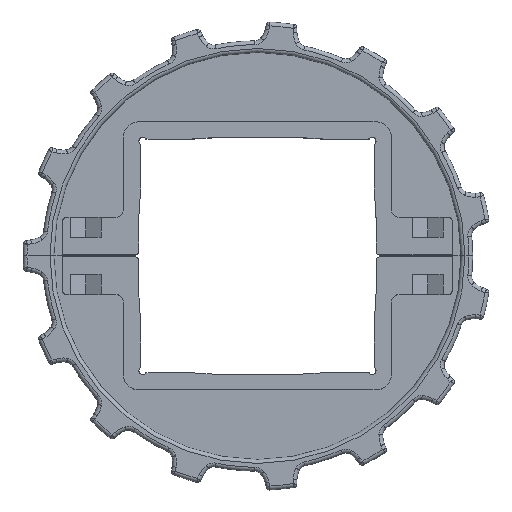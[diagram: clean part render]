
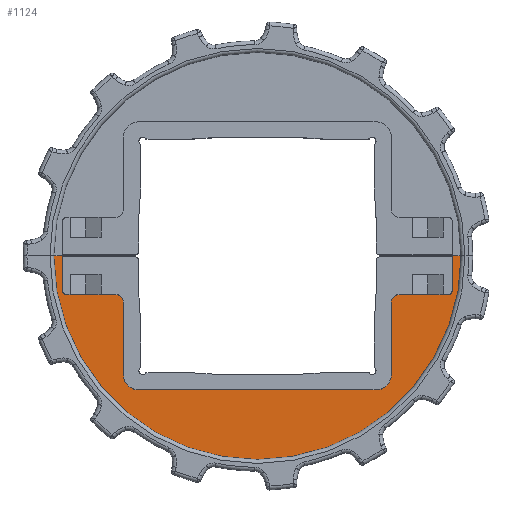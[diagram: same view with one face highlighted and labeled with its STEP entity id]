
A CAD part, top view. The second image highlights one B-rep face of the part: STEP entity #1124.
In plain terms, the highlighted planar face has unit normal (0, 0, 1).
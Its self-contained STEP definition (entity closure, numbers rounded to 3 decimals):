
#1124=ADVANCED_FACE('',(#1918),#1529,.F.);
#1529=PLANE('',#11512);
#1918=FACE_OUTER_BOUND('',#2584,.T.);
#2584=EDGE_LOOP('',(#5409,#5410,#5411,#5412,#5413,#5414,#5415,#5416,#5417,
#5418,#5419,#5420,#5421,#5422,#5423,#5424,#5425,#5426,#5427,#5428,#5429,
#5430,#5431,#5432,#5433,#5434));
#3343=CIRCLE('',#11501,1.);
#3344=CIRCLE('',#11502,1.);
#3345=CIRCLE('',#11503,52.8);
#3346=CIRCLE('',#11504,1.);
#3347=CIRCLE('',#11505,1.);
#3348=CIRCLE('',#11506,1.);
#3349=CIRCLE('',#11507,2.);
#3350=CIRCLE('',#11508,4.);
#3351=CIRCLE('',#11509,4.);
#3352=CIRCLE('',#11510,2.);
#3353=CIRCLE('',#11511,1.);
#5409=ORIENTED_EDGE('',*,*,#8720,.T.);
#5410=ORIENTED_EDGE('',*,*,#8651,.T.);
#5411=ORIENTED_EDGE('',*,*,#8721,.T.);
#5412=ORIENTED_EDGE('',*,*,#8722,.T.);
#5413=ORIENTED_EDGE('',*,*,#8723,.T.);
#5414=ORIENTED_EDGE('',*,*,#8724,.T.);
#5415=ORIENTED_EDGE('',*,*,#8725,.F.);
#5416=ORIENTED_EDGE('',*,*,#8726,.F.);
#5417=ORIENTED_EDGE('',*,*,#8727,.F.);
#5418=ORIENTED_EDGE('',*,*,#8728,.T.);
#5419=ORIENTED_EDGE('',*,*,#8729,.T.);
#5420=ORIENTED_EDGE('',*,*,#8730,.T.);
#5421=ORIENTED_EDGE('',*,*,#8731,.T.);
#5422=ORIENTED_EDGE('',*,*,#8665,.T.);
#5423=ORIENTED_EDGE('',*,*,#8732,.T.);
#5424=ORIENTED_EDGE('',*,*,#8733,.T.);
#5425=ORIENTED_EDGE('',*,*,#8659,.T.);
#5426=ORIENTED_EDGE('',*,*,#8734,.T.);
#5427=ORIENTED_EDGE('',*,*,#8735,.T.);
#5428=ORIENTED_EDGE('',*,*,#8736,.T.);
#5429=ORIENTED_EDGE('',*,*,#8737,.T.);
#5430=ORIENTED_EDGE('',*,*,#8738,.T.);
#5431=ORIENTED_EDGE('',*,*,#8739,.T.);
#5432=ORIENTED_EDGE('',*,*,#8740,.T.);
#5433=ORIENTED_EDGE('',*,*,#8741,.T.);
#5434=ORIENTED_EDGE('',*,*,#8742,.T.);
#7385=VERTEX_POINT('',#19244);
#7386=VERTEX_POINT('',#19245);
#7393=VERTEX_POINT('',#19260);
#7394=VERTEX_POINT('',#19262);
#7399=VERTEX_POINT('',#19274);
#7400=VERTEX_POINT('',#19275);
#7449=VERTEX_POINT('',#19382);
#7450=VERTEX_POINT('',#19384);
#7451=VERTEX_POINT('',#19386);
#7452=VERTEX_POINT('',#19388);
#7453=VERTEX_POINT('',#19390);
#7454=VERTEX_POINT('',#19392);
#7455=VERTEX_POINT('',#19394);
#7456=VERTEX_POINT('',#19396);
#7457=VERTEX_POINT('',#19398);
#7458=VERTEX_POINT('',#19400);
#7459=VERTEX_POINT('',#19402);
#7460=VERTEX_POINT('',#19405);
#7461=VERTEX_POINT('',#19408);
#7462=VERTEX_POINT('',#19410);
#7463=VERTEX_POINT('',#19412);
#7464=VERTEX_POINT('',#19414);
#7465=VERTEX_POINT('',#19416);
#7466=VERTEX_POINT('',#19418);
#7467=VERTEX_POINT('',#19420);
#7468=VERTEX_POINT('',#19422);
#8651=EDGE_CURVE('',#7385,#7386,#9764,.T.);
#8659=EDGE_CURVE('',#7394,#7393,#9771,.T.);
#8665=EDGE_CURVE('',#7399,#7400,#9777,.T.);
#8720=EDGE_CURVE('',#7449,#7385,#9808,.T.);
#8721=EDGE_CURVE('',#7386,#7450,#9809,.T.);
#8722=EDGE_CURVE('',#7450,#7451,#3343,.T.);
#8723=EDGE_CURVE('',#7451,#7452,#9810,.T.);
#8724=EDGE_CURVE('',#7452,#7453,#3344,.T.);
#8725=EDGE_CURVE('',#7454,#7453,#9811,.T.);
#8726=EDGE_CURVE('',#7455,#7454,#3345,.T.);
#8727=EDGE_CURVE('',#7456,#7455,#9812,.T.);
#8728=EDGE_CURVE('',#7456,#7457,#3346,.T.);
#8729=EDGE_CURVE('',#7457,#7458,#9813,.T.);
#8730=EDGE_CURVE('',#7458,#7459,#3347,.T.);
#8731=EDGE_CURVE('',#7459,#7399,#9814,.T.);
#8732=EDGE_CURVE('',#7400,#7460,#9815,.T.);
#8733=EDGE_CURVE('',#7460,#7394,#3348,.T.);
#8734=EDGE_CURVE('',#7393,#7461,#3349,.T.);
#8735=EDGE_CURVE('',#7461,#7462,#9816,.T.);
#8736=EDGE_CURVE('',#7462,#7463,#3350,.T.);
#8737=EDGE_CURVE('',#7463,#7464,#9817,.T.);
#8738=EDGE_CURVE('',#7464,#7465,#3351,.T.);
#8739=EDGE_CURVE('',#7465,#7466,#9818,.T.);
#8740=EDGE_CURVE('',#7466,#7467,#3352,.T.);
#8741=EDGE_CURVE('',#7467,#7468,#9819,.T.);
#8742=EDGE_CURVE('',#7468,#7449,#3353,.T.);
#9764=LINE('',#19243,#10450);
#9771=LINE('',#19261,#10457);
#9777=LINE('',#19273,#10463);
#9808=LINE('',#19381,#10494);
#9809=LINE('',#19383,#10495);
#9810=LINE('',#19387,#10496);
#9811=LINE('',#19391,#10497);
#9812=LINE('',#19395,#10498);
#9813=LINE('',#19399,#10499);
#9814=LINE('',#19403,#10500);
#9815=LINE('',#19404,#10501);
#9816=LINE('',#19409,#10502);
#9817=LINE('',#19413,#10503);
#9818=LINE('',#19417,#10504);
#9819=LINE('',#19421,#10505);
#10450=VECTOR('',#13947,1.);
#10457=VECTOR('',#13958,1.);
#10463=VECTOR('',#13966,1.);
#10494=VECTOR('',#14051,1.);
#10495=VECTOR('',#14052,1.);
#10496=VECTOR('',#14055,1.);
#10497=VECTOR('',#14058,1.);
#10498=VECTOR('',#14061,1.);
#10499=VECTOR('',#14064,1.);
#10500=VECTOR('',#14067,1.);
#10501=VECTOR('',#14068,1.);
#10502=VECTOR('',#14073,1.);
#10503=VECTOR('',#14076,1.);
#10504=VECTOR('',#14079,1.);
#10505=VECTOR('',#14082,1.);
#11501=AXIS2_PLACEMENT_3D('',#19385,#14053,#14054);
#11502=AXIS2_PLACEMENT_3D('',#19389,#14056,#14057);
#11503=AXIS2_PLACEMENT_3D('',#19393,#14059,#14060);
#11504=AXIS2_PLACEMENT_3D('',#19397,#14062,#14063);
#11505=AXIS2_PLACEMENT_3D('',#19401,#14065,#14066);
#11506=AXIS2_PLACEMENT_3D('',#19406,#14069,#14070);
#11507=AXIS2_PLACEMENT_3D('',#19407,#14071,#14072);
#11508=AXIS2_PLACEMENT_3D('',#19411,#14074,#14075);
#11509=AXIS2_PLACEMENT_3D('',#19415,#14077,#14078);
#11510=AXIS2_PLACEMENT_3D('',#19419,#14080,#14081);
#11511=AXIS2_PLACEMENT_3D('',#19423,#14083,#14084);
#11512=AXIS2_PLACEMENT_3D('',#19424,#14085,#14086);
#13947=DIRECTION('',(1.,0.,0.));
#13958=DIRECTION('',(-1.,0.,0.));
#13966=DIRECTION('',(1.,0.,0.));
#14051=DIRECTION('',(0.,1.,0.));
#14052=DIRECTION('',(-1.,0.,0.));
#14053=DIRECTION('',(0.,0.,-1.));
#14054=DIRECTION('',(-1.,0.,0.));
#14055=DIRECTION('',(-0.997,0.083,0.));
#14056=DIRECTION('',(0.,0.,1.));
#14057=DIRECTION('',(-1.,0.,0.));
#14058=DIRECTION('',(1.,0.,0.));
#14059=DIRECTION('',(0.,0.,-1.));
#14060=DIRECTION('',(1.,0.,0.));
#14061=DIRECTION('',(1.,0.,0.));
#14062=DIRECTION('',(0.,0.,1.));
#14063=DIRECTION('',(-1.,0.,0.));
#14064=DIRECTION('',(-0.997,-0.083,0.));
#14065=DIRECTION('',(0.,0.,-1.));
#14066=DIRECTION('',(-1.,0.,0.));
#14067=DIRECTION('',(-1.,0.,0.));
#14068=DIRECTION('',(0.,-1.,0.));
#14069=DIRECTION('',(0.,0.,-1.));
#14070=DIRECTION('',(1.,0.,0.));
#14071=DIRECTION('',(0.,0.,1.));
#14072=DIRECTION('',(1.,0.,0.));
#14073=DIRECTION('',(0.,-1.,0.));
#14074=DIRECTION('',(0.,0.,-1.));
#14075=DIRECTION('',(1.,0.,0.));
#14076=DIRECTION('',(-1.,0.,0.));
#14077=DIRECTION('',(0.,0.,-1.));
#14078=DIRECTION('',(1.,0.,0.));
#14079=DIRECTION('',(0.,1.,0.));
#14080=DIRECTION('',(0.,0.,1.));
#14081=DIRECTION('',(1.,0.,0.));
#14082=DIRECTION('',(-1.,0.,0.));
#14083=DIRECTION('',(0.,0.,-1.));
#14084=DIRECTION('',(1.,0.,0.));
#14085=DIRECTION('',(0.,0.,-1.));
#14086=DIRECTION('',(-1.,0.,0.));
#19243=CARTESIAN_POINT('',(-71.704,-250.242,-13.561));
#19244=CARTESIAN_POINT('',(-78.2,-250.245,-13.561));
#19245=CARTESIAN_POINT('',(-59.45,-250.236,-13.561));
#19260=CARTESIAN_POINT('',(9.05,-259.986,-13.561));
#19261=CARTESIAN_POINT('',(-71.7,-259.986,-13.561));
#19262=CARTESIAN_POINT('',(21.8,-259.986,-13.561));
#19273=CARTESIAN_POINT('',(-71.695,-250.2,-13.561));
#19274=CARTESIAN_POINT('',(4.051,-250.236,-13.561));
#19275=CARTESIAN_POINT('',(22.8,-250.245,-13.561));
#19381=CARTESIAN_POINT('',(-78.2,-258.986,-13.561));
#19382=CARTESIAN_POINT('',(-78.2,-258.986,-13.561));
#19383=CARTESIAN_POINT('',(-48.45,-250.236,-13.561));
#19384=CARTESIAN_POINT('',(-75.408,-250.236,-13.561));
#19385=CARTESIAN_POINT('',(-75.408,-249.236,-13.561));
#19386=CARTESIAN_POINT('',(-75.491,-250.232,-13.561));
#19387=CARTESIAN_POINT('',(-71.001,-250.606,-13.561));
#19388=CARTESIAN_POINT('',(-78.408,-249.989,-13.561));
#19389=CARTESIAN_POINT('',(-78.491,-250.986,-13.561));
#19390=CARTESIAN_POINT('',(-78.491,-249.986,-13.561));
#19391=CARTESIAN_POINT('',(-88.45,-249.986,-13.561));
#19392=CARTESIAN_POINT('',(-80.5,-249.986,-13.561));
#19393=CARTESIAN_POINT('',(-27.7,-249.986,-13.561));
#19394=CARTESIAN_POINT('',(25.1,-249.986,-13.561));
#19395=CARTESIAN_POINT('',(21.142,-249.986,-13.561));
#19396=CARTESIAN_POINT('',(21.142,-249.986,-13.561));
#19397=CARTESIAN_POINT('',(21.142,-250.986,-13.561));
#19398=CARTESIAN_POINT('',(21.059,-249.989,-13.561));
#19399=CARTESIAN_POINT('',(-71.804,-257.728,-13.561));
#19400=CARTESIAN_POINT('',(18.142,-250.232,-13.561));
#19401=CARTESIAN_POINT('',(18.059,-249.236,-13.561));
#19402=CARTESIAN_POINT('',(18.059,-250.236,-13.561));
#19403=CARTESIAN_POINT('',(17.3,-250.236,-13.561));
#19404=CARTESIAN_POINT('',(22.8,-258.986,-13.561));
#19405=CARTESIAN_POINT('',(22.8,-258.986,-13.561));
#19406=CARTESIAN_POINT('',(21.8,-258.986,-13.561));
#19407=CARTESIAN_POINT('',(9.05,-261.986,-13.561));
#19408=CARTESIAN_POINT('',(7.05,-261.986,-13.561));
#19409=CARTESIAN_POINT('',(7.05,-258.986,-13.561));
#19410=CARTESIAN_POINT('',(7.05,-280.736,-13.561));
#19411=CARTESIAN_POINT('',(3.05,-280.736,-13.561));
#19412=CARTESIAN_POINT('',(3.05,-284.736,-13.561));
#19413=CARTESIAN_POINT('',(-71.7,-284.736,-13.561));
#19414=CARTESIAN_POINT('',(-58.45,-284.736,-13.561));
#19415=CARTESIAN_POINT('',(-58.45,-280.736,-13.561));
#19416=CARTESIAN_POINT('',(-62.45,-280.736,-13.561));
#19417=CARTESIAN_POINT('',(-62.45,-258.986,-13.561));
#19418=CARTESIAN_POINT('',(-62.45,-261.986,-13.561));
#19419=CARTESIAN_POINT('',(-64.45,-261.986,-13.561));
#19420=CARTESIAN_POINT('',(-64.45,-259.986,-13.561));
#19421=CARTESIAN_POINT('',(-71.7,-259.986,-13.561));
#19422=CARTESIAN_POINT('',(-77.2,-259.986,-13.561));
#19423=CARTESIAN_POINT('',(-77.2,-258.986,-13.561));
#19424=CARTESIAN_POINT('',(-71.7,-258.986,-13.561));
